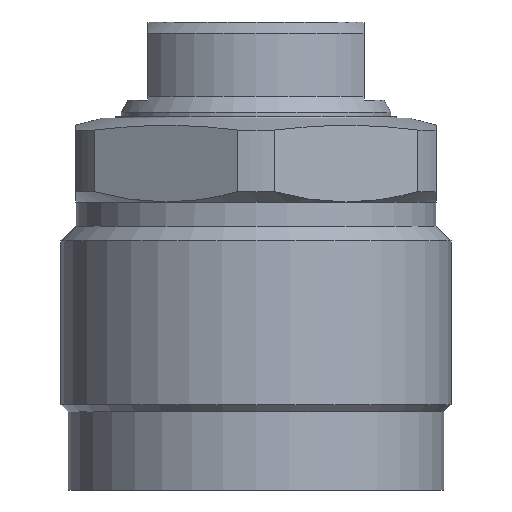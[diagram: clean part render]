
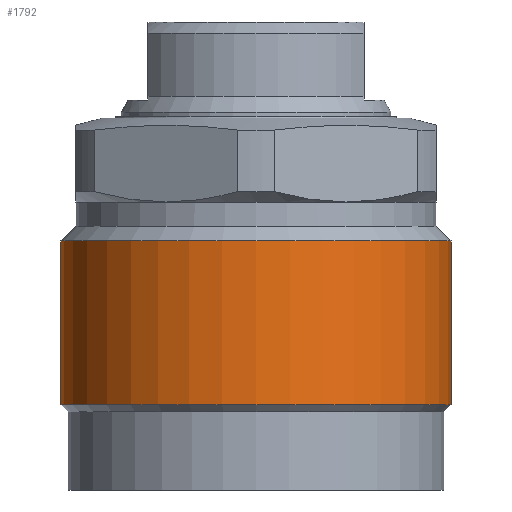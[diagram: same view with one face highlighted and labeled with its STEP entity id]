
A CAD part, front view. The second image highlights one B-rep face of the part: STEP entity #1792.
In plain terms, the highlighted cylindrical face has radius 32.5 mm (diameter 65 mm), a partial arc.
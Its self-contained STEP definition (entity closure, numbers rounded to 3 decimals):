
#1729=CARTESIAN_POINT('',(-32.5,0.0,-47.8));
#1730=VERTEX_POINT('',#1729);
#1738=CARTESIAN_POINT('',(32.5,0.0,-47.8));
#1739=VERTEX_POINT('',#1738);
#1746=CARTESIAN_POINT('',(-0.0,0.0,-47.8));
#1747=DIRECTION('',(0.0,0.0,1.0));
#1748=DIRECTION('',(1.0,0.0,-0.0));
#1749=AXIS2_PLACEMENT_3D('',#1746,#1747,#1748);
#1750=CIRCLE('',#1749,32.5);
#1751=EDGE_CURVE('no 2511',#1730,#1739,#1750,.T.);
#1761=CARTESIAN_POINT('',(-32.5,0.0,-20.5));
#1762=VERTEX_POINT('',#1761);
#1763=CARTESIAN_POINT('',(-32.5,0.0,-47.8));
#1764=DIRECTION('',(0.0,-0.0,1.0));
#1765=VECTOR('',#1764,1.0);
#1766=LINE('',#1763,#1765);
#1767=EDGE_CURVE('no 2521',#1730,#1762,#1766,.T.);
#1768=ORIENTED_EDGE('',*,*,#1767,.F.);
#1769=ORIENTED_EDGE('',*,*,#1751,.T.);
#1770=CARTESIAN_POINT('',(32.5,0.0,-20.5));
#1771=VERTEX_POINT('',#1770);
#1772=CARTESIAN_POINT('',(32.5,0.0,-47.8));
#1773=DIRECTION('',(0.0,0.0,1.0));
#1774=VECTOR('',#1773,1.0);
#1775=LINE('',#1772,#1774);
#1776=EDGE_CURVE('no 2529',#1739,#1771,#1775,.T.);
#1777=ORIENTED_EDGE('',*,*,#1776,.T.);
#1778=CARTESIAN_POINT('',(-0.0,0.0,-20.5));
#1779=DIRECTION('',(0.0,0.0,1.0));
#1780=DIRECTION('',(1.0,0.0,-0.0));
#1781=AXIS2_PLACEMENT_3D('',#1778,#1779,#1780);
#1782=CIRCLE('',#1781,32.5);
#1783=EDGE_CURVE('no 2533',#1762,#1771,#1782,.T.);
#1784=ORIENTED_EDGE('',*,*,#1783,.F.);
#1785=EDGE_LOOP('',(#1768,#1769,#1777,#1784));
#1786=FACE_OUTER_BOUND('',#1785,.T.);
#1787=CARTESIAN_POINT('',(0.0,0.0,10.166));
#1788=DIRECTION('',(0.0,0.0,1.0));
#1789=DIRECTION('',(0.0,1.0,-0.0));
#1790=AXIS2_PLACEMENT_3D('',#1787,#1788,#1789);
#1791=CYLINDRICAL_SURFACE('',#1790,32.5);
#1792=ADVANCED_FACE('no 2514',(#1786),#1791,.T.);
